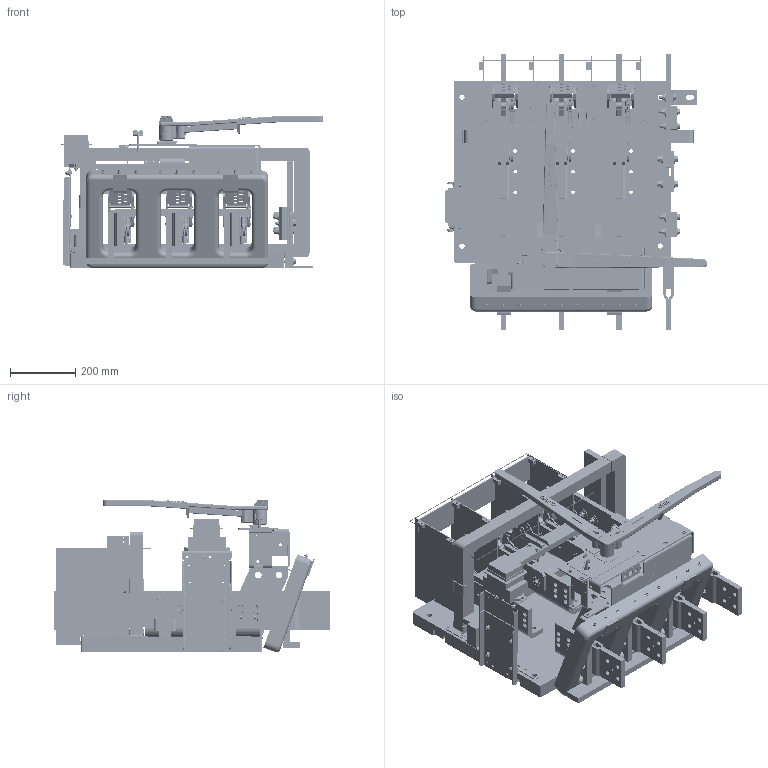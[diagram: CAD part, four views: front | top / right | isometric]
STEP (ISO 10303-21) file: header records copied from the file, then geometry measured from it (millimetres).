
FILE_DESCRIPTION(/* description */ (''),/* implementation_level */ '2;1');
FILE_NAME(/* name */ 'H:\switches\3d-templates\catalog-switches-iges-files\CATALOG-VL3611AG60.stp',/* time_stamp */ '2022-03-23T15:25:04-05:00',/* author */ ('MKingston'),/* organization */ (''),/* preprocessor_version */ 'ST-DEVELOPER v18.1',/* originating_system */ 'Autodesk Inventor 2022',/* authorisation */ '');
FILE_SCHEMA (('AUTOMOTIVE_DESIGN { 1 0 10303 214 3 1 1 }'));
Products named in the file (104): CATALOG-VL3611; 277; 670-D; 670-c; 670-E; CATALOG-2500amp-blade-assy; 67-fc3; 69-gc3; 670-AR; 670-AL; 70-M; 67-H; 67-j; ANSI/ASME B18.7 - T 0.252 x 17/32; ANSI/ASME B18.7 - T 0.188 x 17/32; 235-b; 230-a; CATALOG-58-qd-arc-chute-assy; 50-ql; 50-qr; 363-a; 363-b; 58-QG; ANSI B18.6.3 - No. 8 - 32 - 5/8; ANSI B18.6.3 - No. 8 - 32 - 1/2; ANSI B18.6.3 - No. 8 - 32 - 3; 255-z; 246-a; 255-bha; 255-c; 178-c; 178-b; 2500-VL-NEUTRAL; 675-a; 675-ff; 676-k; 677-e; 678-r; 675-ba; Bolted Connection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
Assembly tree (263 placements, depth 4):
  CATALOG-VL3611
    277
    670-D  x3
    670-c  x3
    670-E  x3
    CATALOG-2500amp-blade-assy  x3
      67-fc3
      69-gc3
      67-j
      670-AR
      670-AL
      70-M
      67-H
      ANSI/ASME B18.7 - T 0.252 x 17/32
      ANSI/ASME B18.7 - T 0.188 x 17/32
    235-b
    230-a
    CATALOG-58-qd-arc-chute-assy  x3
      50-ql
      50-qr
      363-a
      363-b
      58-QG
      ANSI B18.6.3 - No. 8 - 32 - 5/8
      ANSI B18.6.3 - No. 8 - 32 - 1/2
      ANSI B18.6.3 - No. 8 - 32 - 3
    255-bha  x4
    255-z
    246-a  x2
    255-c
    178-c  x8
    178-b  x8
    2500-VL-NEUTRAL
      675-a
      675-ff  x2
      676-k  x4
      677-e  x2
      678-r
      675-ba
      Bolted Connection
        ASTM F436 - 1/2, CW  x8
        ANSI B18.2.1 - 1/2-13 UNC - 2.25, HCSI  x4
        ASME B18.21.1 - 1/2, RHSLW  x4
        AS 2465 - 1/2  UNC  x4
      Bolted Connection_1
        ASTM F436 - 3/8, CW  x4
        ANSI B18.2.1 - 3/8-16 UNC - 2.25, HCSI  x4
        ANSI B18.22.1 - 3/8 - wide - Type B  x4
        ANSI B18.21.1 - 0.375  x4
        ANSI B18.2.2 - 3/8 - 16, HNI  x4
      Bolted Connection_2
        ASTM F436 - 3/8, CW
        ANSI B18.2.1 - 3/8-16 UNC - 1.75, HCSI
        ANSI B18.22.1 - 3/8 - wide - Type B
        ANSI B18.21.1 - 0.375
        ANSI B18.2.2 - 3/8 - 16, HNI
    221-kpa
    452
    481-a
    gfi-ring-assembly
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Bounding box: 807.1 x 849.16 x 468.11 mm (x, y, z)
Volume: 31113001.6 mm3; surface area: 6099444.9 mm2
Topology: 326 solids, 327 shells, 8664 faces, 21505 edges, 13841 vertices
Faces by surface type: plane 4276, cylinder 2793, cone 1162, torus 244, bspline 154, sphere 35
Full cylindrical faces by diameter (mm): 1.702 x8, 3.175 x4, 3.302 x26, 3.581 x2, 3.683 x8, 3.81 x9, 3.962 x11, 4.089 x4, 4.166 x15, 4.191 x9, 4.293 x9, 4.366 x2, 4.496 x24, 4.572 x9, 4.653 x4, 4.762 x46, 4.775 x11, 4.801 x8, 4.826 x2, 4.902 x14, 4.915 x24, 4.953 x4, 4.978 x17, 5.462 x4, 5.537 x3, 5.556 x5, 5.563 x4, 5.791 x6, 6.35 x22, 6.401 x9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
Entity records: 133897 total; most frequent: CARTESIAN_POINT 32390, DIRECTION 20809, ORIENTED_EDGE 19732, EDGE_CURVE 9874, AXIS2_PLACEMENT_3D 7580, VERTEX_POINT 6355, LINE 5649, VECTOR 5649
